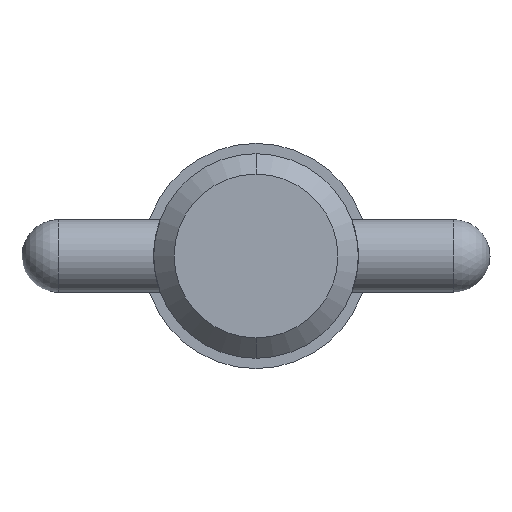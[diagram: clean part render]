
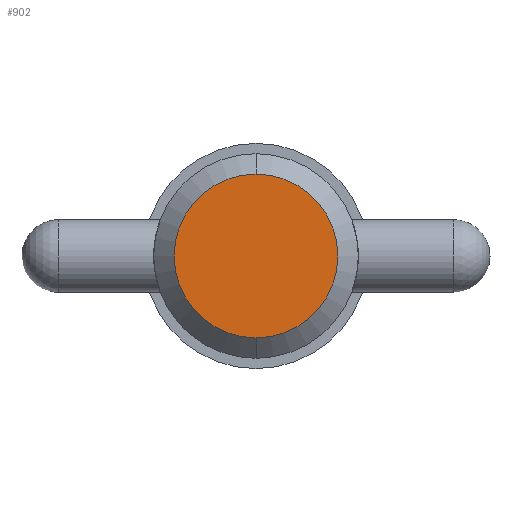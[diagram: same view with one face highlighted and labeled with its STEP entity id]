
A CAD part, left-side view. The second image highlights one B-rep face of the part: STEP entity #902.
In plain terms, the highlighted planar face has unit normal (-1, 0, 0).
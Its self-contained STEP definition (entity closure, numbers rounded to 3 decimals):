
#44 = EDGE_CURVE ( 'NONE', #684, #758, #784, .T. ) ;
#94 = PLANE ( 'NONE',  #361 ) ;
#211 = DIRECTION ( 'NONE',  ( 1., 0., 0. ) ) ;
#231 = DIRECTION ( 'NONE',  ( 0., 0., -1. ) ) ;
#256 = DIRECTION ( 'NONE',  ( 1., 0., 0. ) ) ;
#300 = CARTESIAN_POINT ( 'NONE',  ( 0., 0., 0. ) ) ;
#301 = CIRCLE ( 'NONE', #986, 4.444 ) ;
#361 = AXIS2_PLACEMENT_3D ( 'NONE', #965, #791, #479 ) ;
#378 = CARTESIAN_POINT ( 'NONE',  ( 0., 0., 4.444 ) ) ;
#444 = ORIENTED_EDGE ( 'NONE', *, *, #44, .F. ) ;
#445 = CARTESIAN_POINT ( 'NONE',  ( 0., 0., -4.444 ) ) ;
#479 = DIRECTION ( 'NONE',  ( 0., 0., 1. ) ) ;
#684 = VERTEX_POINT ( 'NONE', #445 ) ;
#694 = EDGE_LOOP ( 'NONE', ( #444, #880 ) ) ;
#700 = EDGE_CURVE ( 'NONE', #758, #684, #301, .T. ) ;
#736 = DIRECTION ( 'NONE',  ( 0., 0., -1. ) ) ;
#758 = VERTEX_POINT ( 'NONE', #378 ) ;
#784 = CIRCLE ( 'NONE', #1005, 4.444 ) ;
#791 = DIRECTION ( 'NONE',  ( -1., 0., 0. ) ) ;
#876 = FACE_OUTER_BOUND ( 'NONE', #694, .T. ) ;
#880 = ORIENTED_EDGE ( 'NONE', *, *, #700, .F. ) ;
#902 = ADVANCED_FACE ( 'NONE', ( #876 ), #94, .T. ) ;
#905 = CARTESIAN_POINT ( 'NONE',  ( 0., 0., 0. ) ) ;
#965 = CARTESIAN_POINT ( 'NONE',  ( 0., 0., 0. ) ) ;
#986 = AXIS2_PLACEMENT_3D ( 'NONE', #300, #211, #231 ) ;
#1005 = AXIS2_PLACEMENT_3D ( 'NONE', #905, #256, #736 ) ;
